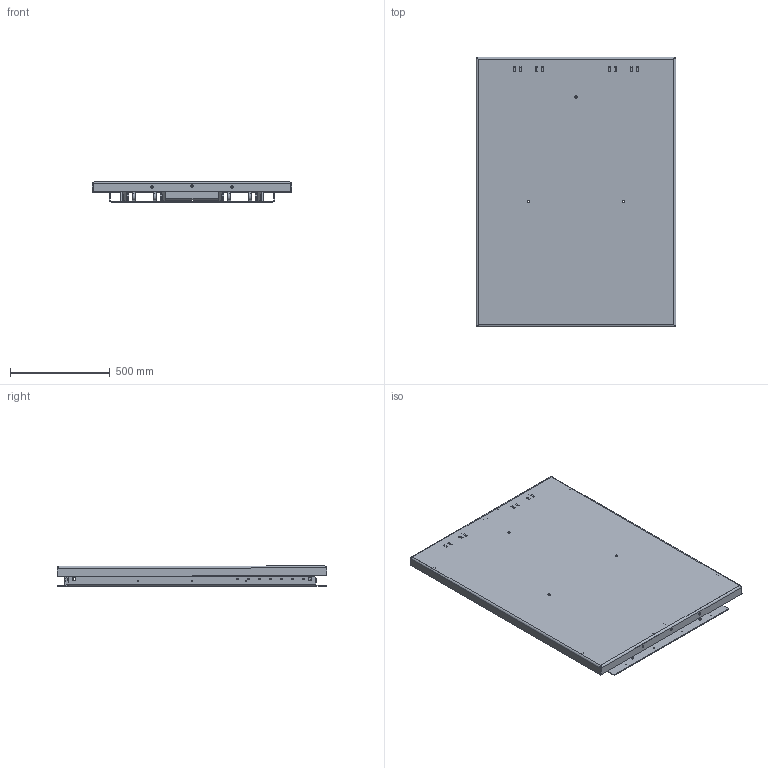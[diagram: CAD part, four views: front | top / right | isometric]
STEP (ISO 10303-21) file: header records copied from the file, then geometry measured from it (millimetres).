
FILE_DESCRIPTION(/* description */ ('TCL 2000 B 1350x1000'),/* implementation_level */ '2;1');
FILE_NAME(/* name */ '\\EDMOFILE01\Users$\JOHSO\Desktop\601904_Closed-Height.stp',/* time_stamp */ '2017-03-24T08:13:44+01:00',/* author */ ('johso'),/* organization */ (''),/* preprocessor_version */ 'ST-DEVELOPER v16.5',/* originating_system */ 'Autodesk Inventor 2017',/* authorisation */ '');
FILE_SCHEMA (('AUTOMOTIVE_DESIGN { 1 0 10303 214 3 1 1 }'));
Length unit declared in the file: millimetre
Products named in the file (16): 601303.tmp; 601295; 601294; 601292; 602256; 601260; 36532; 82149; 36533; 36534; 602748; 602749; 45411; ISO 4014 - M6 x 35; 44572; 45087
Assembly tree (43 placements, depth 5):
  601303.tmp
    601295
      601294
      45411  x8
    601292
      602256
        601260  x2
          36532
        82149
      36533  x2
        36534
    602748
      602749
      45411  x8
      ISO 4014 - M6 x 35  x6
      44572  x2
      45087  x4
Bounding box: 1000 x 1350.01 x 100.18 mm (x, y, z)
Volume: 26056134.5 mm3; surface area: 7791232 mm2
Topology: 39 solids, 39 shells, 2068 faces, 5815 edges, 3853 vertices
Faces by surface type: cylinder 1192, plane 798, cone 42, bspline 36
Full cylindrical faces by diameter (mm): 5 x8, 5.5 x9, 6 x6, 7.4 x12, 8.5 x4, 8.88 x6, 9 x6, 12 x3, 12.5 x6, 13 x8, 15 x16, 16 x4, 26.2 x8
Entity records: 31258 total; most frequent: CARTESIAN_POINT 6032, DIRECTION 5330, ORIENTED_EDGE 5082, EDGE_CURVE 2541, AXIS2_PLACEMENT_3D 1929, VERTEX_POINT 1715, LINE 1472, VECTOR 1472
